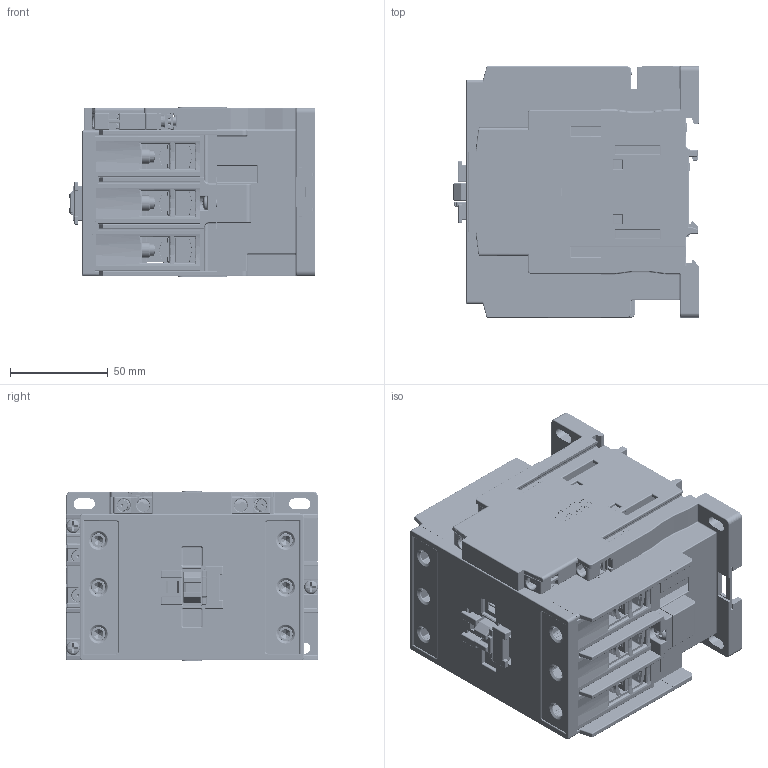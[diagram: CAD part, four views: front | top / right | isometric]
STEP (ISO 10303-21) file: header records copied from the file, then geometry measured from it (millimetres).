
FILE_DESCRIPTION((''),'2;1');
FILE_NAME('2ZTJ-400-103_SW0001','2022-03-16T16:42:08',('hxiuc'),(''),'CREO PARAMETRIC BY PTC INC, 2020044','CREO PARAMETRIC BY PTC INC, 2020044','');
FILE_SCHEMA(('CONFIG_CONTROL_DESIGN','SHAPE_APPEARANCE_LAYERS_GROUPS'));
Products named in the file (1): 2ZTJ-400-103_SW0001
Bounding box: 125.7 x 129 x 86.9 mm (x, y, z)
Volume: 770082.1 mm3; surface area: 294768.4 mm2
Topology: 2 solids, 2 shells, 14439 faces, 38603 edges, 24010 vertices
Faces by surface type: plane 8080, cylinder 4328, torus 969, sphere 528, bspline 319, cone 207, extrusion 8
Entity records: 553556 total; most frequent: CARTESIAN_POINT 107958, ORIENTED_EDGE 77068, DIRECTION 73046, EDGE_CURVE 38534, VECTOR 27230, LINE 27222, VERTEX_POINT 24004, AXIS2_PLACEMENT_3D 22908
